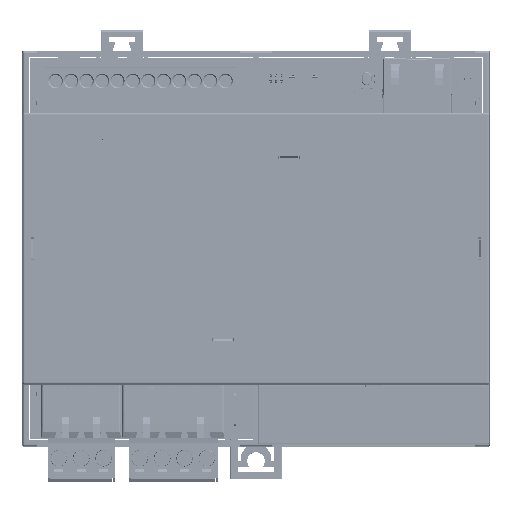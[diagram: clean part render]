
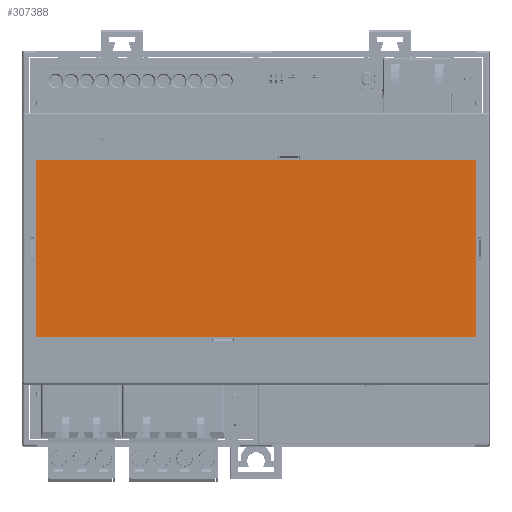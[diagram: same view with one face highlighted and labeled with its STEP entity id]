
A CAD part, top view. The second image highlights one B-rep face of the part: STEP entity #307388.
In plain terms, the highlighted planar face has unit normal (0, 0, 1) as drawn and (0, 0, -1) by its records, which use the part's own axes.
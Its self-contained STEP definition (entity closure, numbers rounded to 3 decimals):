
#23404=FACE_OUTER_BOUND('',#39665,.T.);
#39665=EDGE_LOOP('',(#209416,#209417,#209418,#209419));
#59943=LINE('',#434299,#96017);
#59945=LINE('',#434303,#96019);
#59947=LINE('',#434307,#96021);
#59949=LINE('',#434310,#96023);
#96017=VECTOR('',#351251,1000.);
#96019=VECTOR('',#351255,1000.);
#96021=VECTOR('',#351259,1000.);
#96023=VECTOR('',#351263,1000.);
#131630=VERTEX_POINT('',#434296);
#131631=VERTEX_POINT('',#434298);
#131632=VERTEX_POINT('',#434302);
#131633=VERTEX_POINT('',#434306);
#162132=EDGE_CURVE('',#131631,#131630,#59943,.T.);
#162134=EDGE_CURVE('',#131632,#131631,#59945,.T.);
#162136=EDGE_CURVE('',#131633,#131632,#59947,.T.);
#162138=EDGE_CURVE('',#131630,#131633,#59949,.T.);
#209416=ORIENTED_EDGE('',*,*,#162136,.T.);
#209417=ORIENTED_EDGE('',*,*,#162134,.T.);
#209418=ORIENTED_EDGE('',*,*,#162132,.T.);
#209419=ORIENTED_EDGE('',*,*,#162138,.T.);
#295459=PLANE('',#324895);
#307388=ADVANCED_FACE('',(#23404),#295459,.T.);
#324895=AXIS2_PLACEMENT_3D('',#434311,#351264,#351265);
#351251=DIRECTION('',(0.,-1.,0.));
#351255=DIRECTION('',(1.,0.,0.));
#351259=DIRECTION('',(0.,1.,0.));
#351263=DIRECTION('',(-1.,0.,0.));
#351264=DIRECTION('center_axis',(0.,0.,-1.));
#351265=DIRECTION('ref_axis',(-1.,0.,0.));
#434296=CARTESIAN_POINT('',(20.,-50.,0.3));
#434298=CARTESIAN_POINT('',(20.,50.,0.3));
#434299=CARTESIAN_POINT('',(20.,50.,0.3));
#434302=CARTESIAN_POINT('',(-20.,50.,0.3));
#434303=CARTESIAN_POINT('',(-20.,50.,0.3));
#434306=CARTESIAN_POINT('',(-20.,-50.,0.3));
#434307=CARTESIAN_POINT('',(-20.,-50.,0.3));
#434310=CARTESIAN_POINT('',(20.,-50.,0.3));
#434311=CARTESIAN_POINT('Origin',(20.,-50.,0.3));
